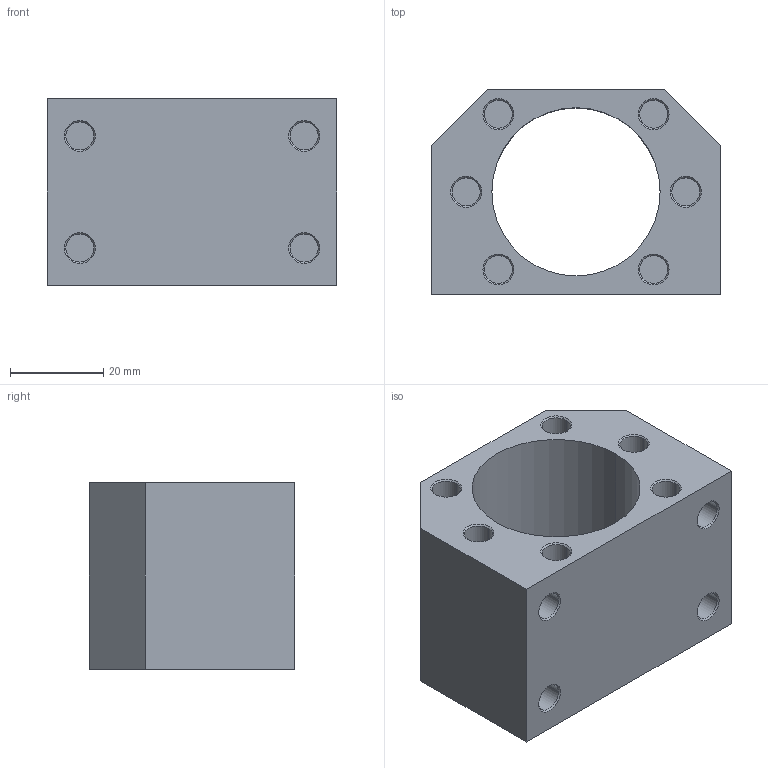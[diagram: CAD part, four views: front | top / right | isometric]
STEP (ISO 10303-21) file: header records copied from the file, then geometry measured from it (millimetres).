
FILE_DESCRIPTION (( 'STEP AP214' ), '1' );
FILE_NAME ('DSG20H.STEP', '2022-04-21T10:30:40', ( '' ), ( '' ), 'SwSTEP 2.0', 'SolidWorks 2019', '' );
FILE_SCHEMA (( 'AUTOMOTIVE_DESIGN' ));
Length unit declared in the file: millimetre
Products named in the file (1): DSG20H
Bounding box: 62 x 44 x 40 mm (x, y, z)
Volume: 59492.1 mm3; surface area: 17637.9 mm2
Topology: 1 solids, 1 shells, 60 faces, 132 edges, 84 vertices
Faces by surface type: cylinder 22, cone 20, plane 18
Entity records: 1930 total; most frequent: DIRECTION 326, CARTESIAN_POINT 277, ORIENTED_EDGE 264, AXIS2_PLACEMENT_3D 133, EDGE_CURVE 132, VERTEX_POINT 84, CIRCLE 72, EDGE_LOOP 72
